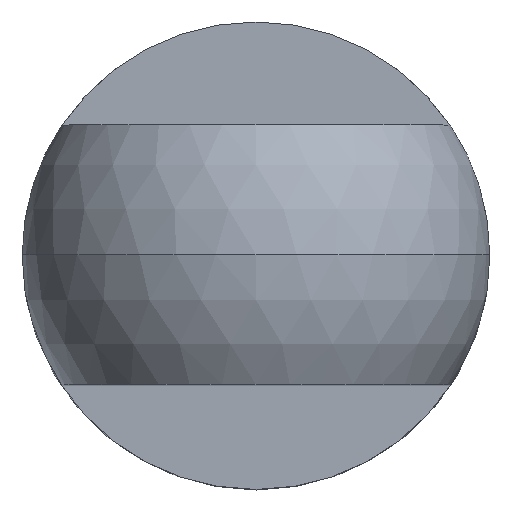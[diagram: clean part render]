
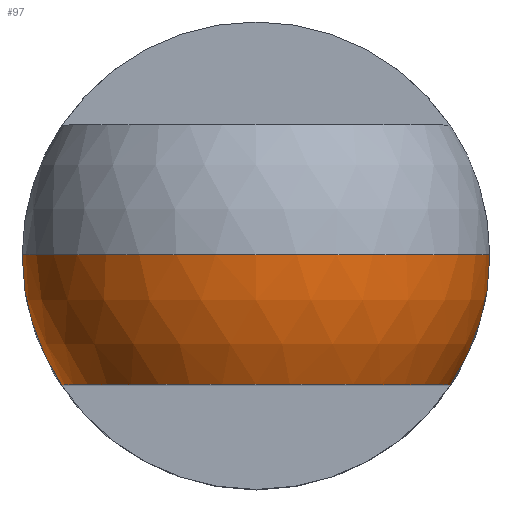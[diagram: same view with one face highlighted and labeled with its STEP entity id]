
A CAD part, top view. The second image highlights one B-rep face of the part: STEP entity #97.
In plain terms, the highlighted spherical face has radius 9 mm.
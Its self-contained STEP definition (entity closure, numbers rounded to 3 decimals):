
#9 = EDGE_CURVE ( 'NONE', #598, #410, #626, .T. ) ;
#13 = CARTESIAN_POINT ( 'NONE',  ( 7.483, -5., 30. ) ) ;
#24 = EDGE_LOOP ( 'NONE', ( #123, #43, #359, #297, #195 ) ) ;
#25 = VERTEX_POINT ( 'NONE', #325 ) ;
#27 = AXIS2_PLACEMENT_3D ( 'NONE', #364, #544, #63 ) ;
#31 = CARTESIAN_POINT ( 'NONE',  ( 0., 0., 30. ) ) ;
#43 = ORIENTED_EDGE ( 'NONE', *, *, #9, .T. ) ;
#61 = DIRECTION ( 'NONE',  ( 0., 0., -1. ) ) ;
#63 = DIRECTION ( 'NONE',  ( 1., 0., 0. ) ) ;
#65 = EDGE_CURVE ( 'NONE', #598, #360, #86, .T. ) ;
#71 = AXIS2_PLACEMENT_3D ( 'NONE', #31, #469, #382 ) ;
#74 = DIRECTION ( 'NONE',  ( 0., 0., 1. ) ) ;
#86 = CIRCLE ( 'NONE', #345, 9. ) ;
#94 = SPHERICAL_SURFACE ( 'NONE', #71, 9. ) ;
#97 = ADVANCED_FACE ( 'NONE', ( #354 ), #94, .T. ) ;
#123 = ORIENTED_EDGE ( 'NONE', *, *, #65, .F. ) ;
#129 = EDGE_CURVE ( 'NONE', #229, #25, #275, .T. ) ;
#149 = CARTESIAN_POINT ( 'NONE',  ( 0., 0., 39. ) ) ;
#185 = DIRECTION ( 'NONE',  ( 0., -1., 0. ) ) ;
#195 = ORIENTED_EDGE ( 'NONE', *, *, #212, .F. ) ;
#212 = EDGE_CURVE ( 'NONE', #360, #229, #343, .T. ) ;
#215 = DIRECTION ( 'NONE',  ( -1., 0., 0. ) ) ;
#226 = CARTESIAN_POINT ( 'NONE',  ( 0., 0., 30. ) ) ;
#229 = VERTEX_POINT ( 'NONE', #13 ) ;
#230 = AXIS2_PLACEMENT_3D ( 'NONE', #265, #61, #215 ) ;
#233 = DIRECTION ( 'NONE',  ( 0., 1., 0. ) ) ;
#238 = CARTESIAN_POINT ( 'NONE',  ( 0., 0., 30. ) ) ;
#255 = AXIS2_PLACEMENT_3D ( 'NONE', #238, #571, #298 ) ;
#265 = CARTESIAN_POINT ( 'NONE',  ( 0., 0., 30. ) ) ;
#275 = CIRCLE ( 'NONE', #27, 7.483 ) ;
#297 = ORIENTED_EDGE ( 'NONE', *, *, #129, .F. ) ;
#298 = DIRECTION ( 'NONE',  ( -1., 0., 0. ) ) ;
#325 = CARTESIAN_POINT ( 'NONE',  ( -7.483, -5., 30. ) ) ;
#332 = CARTESIAN_POINT ( 'NONE',  ( 0., 0., 30. ) ) ;
#333 = CARTESIAN_POINT ( 'NONE',  ( 9., 0., 30. ) ) ;
#336 = CIRCLE ( 'NONE', #255, 9. ) ;
#343 = CIRCLE ( 'NONE', #230, 9. ) ;
#345 = AXIS2_PLACEMENT_3D ( 'NONE', #332, #233, #74 ) ;
#354 = FACE_OUTER_BOUND ( 'NONE', #24, .T. ) ;
#359 = ORIENTED_EDGE ( 'NONE', *, *, #474, .F. ) ;
#360 = VERTEX_POINT ( 'NONE', #333 ) ;
#364 = CARTESIAN_POINT ( 'NONE',  ( 0., -5., 30. ) ) ;
#382 = DIRECTION ( 'NONE',  ( 1., 0., 0. ) ) ;
#410 = VERTEX_POINT ( 'NONE', #485 ) ;
#469 = DIRECTION ( 'NONE',  ( 0., -1., 0. ) ) ;
#474 = EDGE_CURVE ( 'NONE', #25, #410, #336, .T. ) ;
#485 = CARTESIAN_POINT ( 'NONE',  ( -9., 0., 30. ) ) ;
#544 = DIRECTION ( 'NONE',  ( 0., -1., 0. ) ) ;
#571 = DIRECTION ( 'NONE',  ( 0., 0., -1. ) ) ;
#598 = VERTEX_POINT ( 'NONE', #149 ) ;
#614 = DIRECTION ( 'NONE',  ( 1., 0., 0. ) ) ;
#626 = CIRCLE ( 'NONE', #629, 9. ) ;
#629 = AXIS2_PLACEMENT_3D ( 'NONE', #226, #185, #614 ) ;
